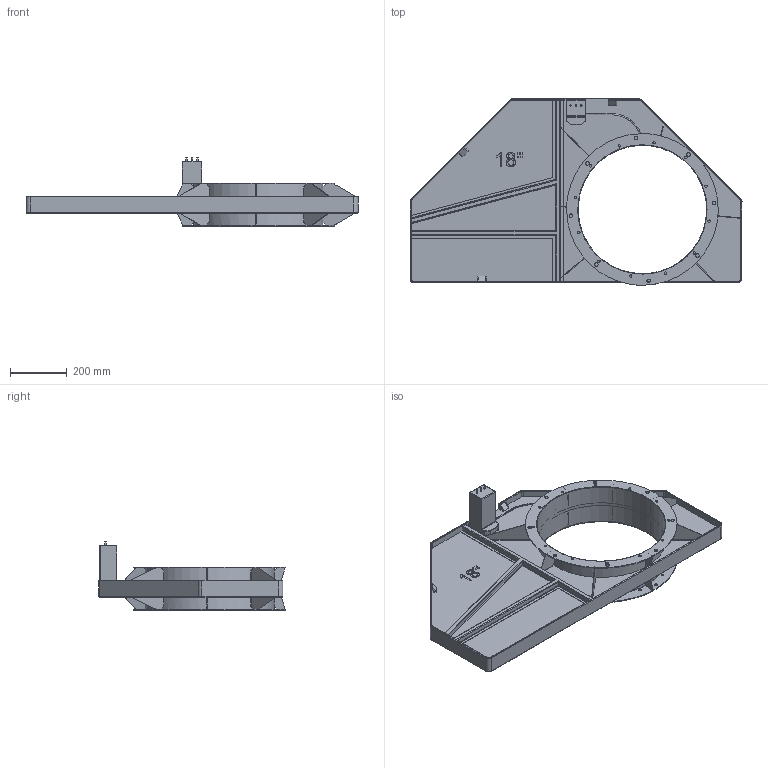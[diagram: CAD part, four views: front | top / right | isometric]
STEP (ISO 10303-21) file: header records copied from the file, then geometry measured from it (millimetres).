
FILE_DESCRIPTION( ('This file contains a STEP AP42 implementation' ,'as created by ZW3D STEP Interface translator.') ,'2;1' );
FILE_NAME( '3D Model-HO218 Body with drive.stp' ,'20 7 9. 7 816', (''), ('ZWCAD Software Co.'), 'Version 1.0', 'ZW3D to STEP translator', '' );
FILE_SCHEMA(('AUTOMOTIVE_DESIGN'));
Length unit declared in the file: millimetre
Products named in the file (1): 0
Bounding box: 1175.07 x 660.53 x 241.2 mm (x, y, z)
Volume: 9405395.9 mm3; surface area: 2299301.9 mm2
Topology: 25 solids, 25 shells, 1209 faces, 3210 edges, 2211 vertices
Faces by surface type: bspline 1209
Entity records: 39718 total; most frequent: CARTESIAN_POINT 19464, ORIENTED_EDGE 6216, EDGE_CURVE 3108, B_SPLINE_CURVE_WITH_KNOTS 2639, VERTEX_POINT 2010, EDGE_LOOP 1356, FACE_OUTER_BOUND 1209, ADVANCED_FACE 1209
